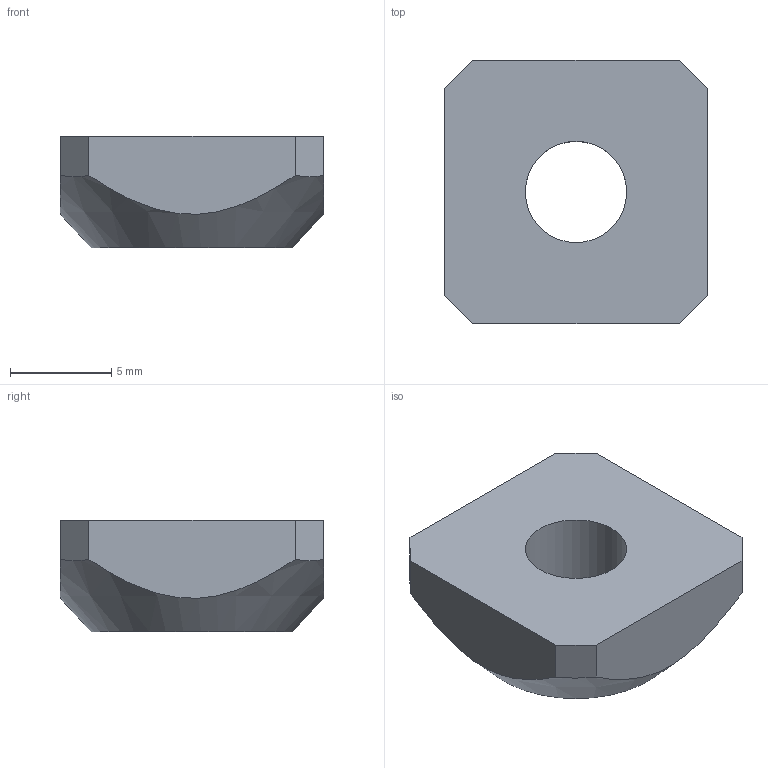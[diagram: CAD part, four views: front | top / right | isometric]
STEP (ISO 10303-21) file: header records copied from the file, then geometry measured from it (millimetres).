
FILE_DESCRIPTION((''),'2;1');
FILE_NAME('C:\Documents and Settings\Administrator\My Documents\Andys Backup Data\STEP LIBRARIES\MINITEC STEP LIBRARIES\FASTENING ELEMENTS\NUTS\21.1320 M5 SQUARE NUT.stp','2008-10-29T15:01:46',('Administrator'),(''),'Autodesk Inventor 2009','Autodesk Inventor 2009','');
FILE_SCHEMA(('AUTOMOTIVE_DESIGN { 1 0 10303 214 1 1 1 1 }'));
Length unit declared in the file: millimetre
Products named in the file (1): 21.1320 M5 SQUARE NUT
Bounding box: 13 x 13 x 5.5 mm (x, y, z)
Volume: 676.4 mm3; surface area: 564.3 mm2
Topology: 1 solids, 1 shells, 12 faces, 30 edges, 20 vertices
Faces by surface type: plane 10, cone 1, cylinder 1
Full cylindrical faces by diameter (mm): 5 x1
Entity records: 360 total; most frequent: CARTESIAN_POINT 75, ORIENTED_EDGE 54, DIRECTION 48, EDGE_CURVE 27, VERTEX_POINT 19, AXIS2_PLACEMENT_3D 16, EDGE_LOOP 16, VECTOR 16
